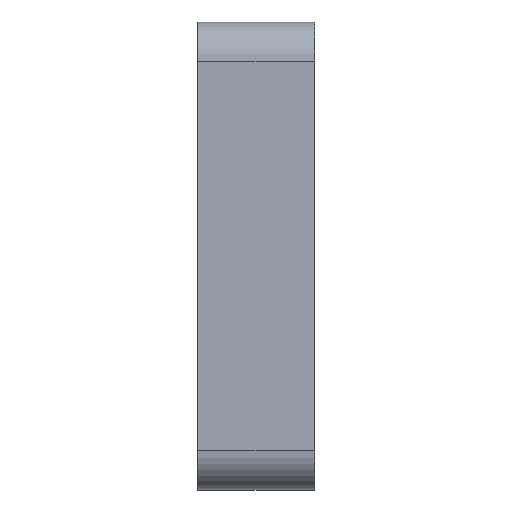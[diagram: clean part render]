
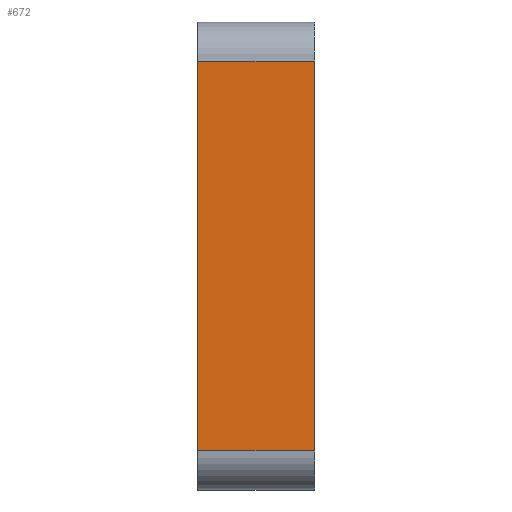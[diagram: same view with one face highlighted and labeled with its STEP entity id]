
A CAD part, left-side view. The second image highlights one B-rep face of the part: STEP entity #672.
In plain terms, the highlighted planar face has unit normal (-1, 0, 0).
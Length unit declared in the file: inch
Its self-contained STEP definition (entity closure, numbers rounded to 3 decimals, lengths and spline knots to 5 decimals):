
#26 = VECTOR ( 'NONE', #576, 39.37008 ) ;
#30 = VERTEX_POINT ( 'NONE', #663 ) ;
#33 = DIRECTION ( 'NONE',  ( 0., 0., 1. ) ) ;
#60 = VECTOR ( 'NONE', #327, 39.37008 ) ;
#119 = CARTESIAN_POINT ( 'NONE',  ( -1., 0., -0.625 ) ) ;
#223 = VECTOR ( 'NONE', #33, 39.37008 ) ;
#241 = CARTESIAN_POINT ( 'NONE',  ( -1., 0., -0.75 ) ) ;
#249 = LINE ( 'NONE', #1063, #60 ) ;
#286 = EDGE_CURVE ( 'NONE', #810, #511, #495, .T. ) ;
#327 = DIRECTION ( 'NONE',  ( 0., 1., 0. ) ) ;
#417 = DIRECTION ( 'NONE',  ( -1., 0., 0. ) ) ;
#424 = EDGE_CURVE ( 'NONE', #30, #523, #815, .T. ) ;
#439 = AXIS2_PLACEMENT_3D ( 'NONE', #604, #417, #988 ) ;
#456 = CARTESIAN_POINT ( 'NONE',  ( -1., 0., -0.625 ) ) ;
#486 = VECTOR ( 'NONE', #624, 39.37008 ) ;
#495 = LINE ( 'NONE', #241, #223 ) ;
#511 = VERTEX_POINT ( 'NONE', #553 ) ;
#521 = EDGE_CURVE ( 'NONE', #30, #810, #914, .T. ) ;
#523 = VERTEX_POINT ( 'NONE', #649 ) ;
#553 = CARTESIAN_POINT ( 'NONE',  ( -1., 0., 0.625 ) ) ;
#576 = DIRECTION ( 'NONE',  ( 0., -1., 0. ) ) ;
#604 = CARTESIAN_POINT ( 'NONE',  ( -1., 0., -0.75 ) ) ;
#617 = CARTESIAN_POINT ( 'NONE',  ( -1., 0.375, -0.75 ) ) ;
#624 = DIRECTION ( 'NONE',  ( 0., 0., 1. ) ) ;
#649 = CARTESIAN_POINT ( 'NONE',  ( -1., 0.375, 0.625 ) ) ;
#663 = CARTESIAN_POINT ( 'NONE',  ( -1., 0.375, -0.625 ) ) ;
#672 = ADVANCED_FACE ( 'NONE', ( #895 ), #1164, .T. ) ;
#710 = ORIENTED_EDGE ( 'NONE', *, *, #521, .T. ) ;
#810 = VERTEX_POINT ( 'NONE', #456 ) ;
#815 = LINE ( 'NONE', #617, #486 ) ;
#825 = EDGE_LOOP ( 'NONE', ( #1025, #1182, #1161, #710 ) ) ;
#895 = FACE_OUTER_BOUND ( 'NONE', #825, .T. ) ;
#914 = LINE ( 'NONE', #119, #26 ) ;
#988 = DIRECTION ( 'NONE',  ( 0., 0., 1. ) ) ;
#1025 = ORIENTED_EDGE ( 'NONE', *, *, #286, .T. ) ;
#1063 = CARTESIAN_POINT ( 'NONE',  ( -1., 0., 0.625 ) ) ;
#1161 = ORIENTED_EDGE ( 'NONE', *, *, #424, .F. ) ;
#1164 = PLANE ( 'NONE',  #439 ) ;
#1178 = EDGE_CURVE ( 'NONE', #511, #523, #249, .T. ) ;
#1182 = ORIENTED_EDGE ( 'NONE', *, *, #1178, .T. ) ;
